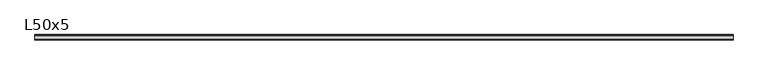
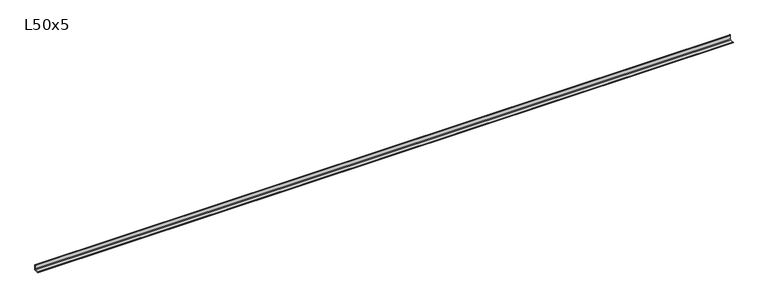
"""IFC4 building model written with IfcOpenShell, lengths in millimetres: beam geometry, Cornière à ailes égales : L50x5."""

from ifc_helpers import new_model, si_unit, point, frame, frame_2d, origin, place, context, project, spatial, polyline, circle_curve, trimmed, segment, composite_curve, outline, extrude, source, transform, mapped, element, save


def l50x5_e48557e0(model_context):
    return source(origin(), model_context, "Body", "SweptSolid", [
        extrude(outline(composite_curve([segment(polyline([(14.0, -14.0), (-36.0, -14.0), (-36.0, -12.5)]), True, "CONTINUOUS"), segment(trimmed(circle_curve(frame_2d((-32.5, -12.5)), 3.5), [point((-36.0, -12.5))], [point((-32.5, -9.0))], False, "CARTESIAN"), True, "CONTINUOUS"), segment(polyline([(-32.5, -9.0), (2.0, -9.0)]), True, "CONTINUOUS"), segment(trimmed(circle_curve(frame_2d((2.0, -2.0)), 7.0), [point((2.0, -9.0))], [point((9.0, -2.0))], True, "CARTESIAN"), True, "CONTINUOUS"), segment(polyline([(9.0, -2.0), (9.0, 32.5)]), True, "CONTINUOUS"), segment(trimmed(circle_curve(frame_2d((12.5, 32.5)), 3.5), [point((9.0, 32.5))], [point((12.5, 36.0))], False, "CARTESIAN"), True, "CONTINUOUS"), segment(polyline([(12.5, 36.0), (14.0, 36.0), (14.0, -14.0)]), True, "CONTINUOUS")], self_intersect=False)), frame((-3294.1, 0.0, 0.0), z_axis=(1.0, 0.0, 0.0), x_axis=(0.0, 1.0, 0.0)), (0.0, 0.0, 1.0), 6588.2),
    ])


if __name__ == "__main__":
    model = new_model("IFC4")
    model_context = context("Model", 3, world=origin())
    ifc_project = project(units=[si_unit("LENGTHUNIT", "METRE", prefix="MILLI")], contexts=[model_context])
    site = spatial("IfcSite", under=ifc_project)
    building = spatial("IfcBuilding", under=site)
    placement = place(None, origin())
    l50x5_shape = l50x5_e48557e0(model_context)
    element("IfcBeam", 1, ObjectType="Cornière à ailes égales : L50x5", at=placement, inside=building, context=model_context, shape_type="MappedRepresentation", body=[
        mapped(l50x5_shape, transform((0.0, 0.0, 0.0), x_axis=(1.0, 0.0, 0.0), y_axis=(0.0, 1.0, 0.0), z_axis=(0.0, 0.0, 1.0))),
    ])
    save(model, "model.ifc")
